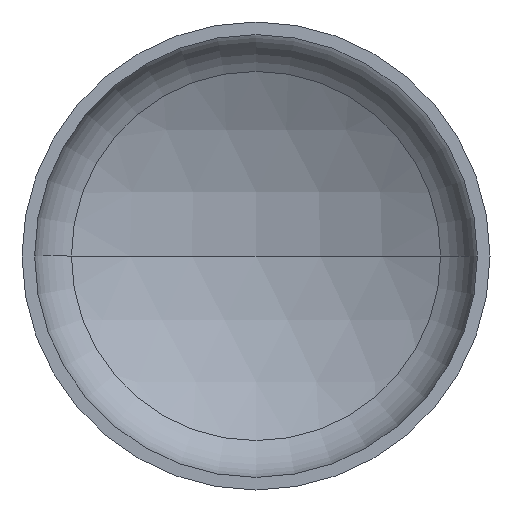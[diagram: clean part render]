
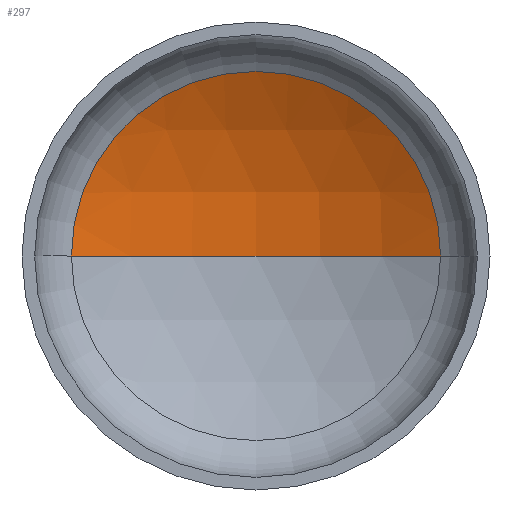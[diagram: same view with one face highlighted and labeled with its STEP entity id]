
A CAD part, front view. The second image highlights one B-rep face of the part: STEP entity #297.
In plain terms, the highlighted spherical face has radius 800 mm.
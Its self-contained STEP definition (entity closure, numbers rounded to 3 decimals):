
#8 = AXIS2_PLACEMENT_3D ( 'NONE', #384, #394, #129 ) ;
#19 = AXIS2_PLACEMENT_3D ( 'NONE', #235, #44, #207 ) ;
#21 = AXIS2_PLACEMENT_3D ( 'NONE', #147, #148, #149 ) ;
#23 = AXIS2_PLACEMENT_3D ( 'NONE', #189, #191, #171 ) ;
#38 = VERTEX_POINT ( 'NONE', #277 ) ;
#44 = DIRECTION ( 'NONE',  ( 0., 0., 1. ) ) ;
#56 = EDGE_CURVE ( 'NONE', #222, #315, #323, .T. ) ;
#57 = EDGE_CURVE ( 'NONE', #38, #222, #252, .T. ) ;
#58 = EDGE_CURVE ( 'NONE', #38, #315, #88, .T. ) ;
#60 = FACE_OUTER_BOUND ( 'NONE', #360, .T. ) ;
#88 = CIRCLE ( 'NONE', #19, 800. ) ;
#101 = CARTESIAN_POINT ( 'NONE',  ( -394.419, 219.853, 0. ) ) ;
#129 = DIRECTION ( 'NONE',  ( -1., 0., 0. ) ) ;
#139 = ORIENTED_EDGE ( 'NONE', *, *, #56, .T. ) ;
#147 = CARTESIAN_POINT ( 'NONE',  ( 0., -476.16, 0. ) ) ;
#148 = DIRECTION ( 'NONE',  ( 0., 0., -1. ) ) ;
#149 = DIRECTION ( 'NONE',  ( -1., 0., 0. ) ) ;
#171 = DIRECTION ( 'NONE',  ( 1., 0., 0. ) ) ;
#189 = CARTESIAN_POINT ( 'NONE',  ( 0., 219.853, 0. ) ) ;
#191 = DIRECTION ( 'NONE',  ( 0., -1., 0. ) ) ;
#207 = DIRECTION ( 'NONE',  ( 1., 0., 0. ) ) ;
#222 = VERTEX_POINT ( 'NONE', #227 ) ;
#225 = SPHERICAL_SURFACE ( 'NONE', #8, 800. ) ;
#227 = CARTESIAN_POINT ( 'NONE',  ( 394.419, 219.853, 0. ) ) ;
#235 = CARTESIAN_POINT ( 'NONE',  ( 0., -476.16, 0. ) ) ;
#252 = CIRCLE ( 'NONE', #21, 800. ) ;
#255 = ORIENTED_EDGE ( 'NONE', *, *, #58, .F. ) ;
#277 = CARTESIAN_POINT ( 'NONE',  ( 0., 323.84, 0. ) ) ;
#297 = ADVANCED_FACE ( 'NONE', ( #60 ), #225, .F. ) ;
#315 = VERTEX_POINT ( 'NONE', #101 ) ;
#323 = CIRCLE ( 'NONE', #23, 394.419 ) ;
#360 = EDGE_LOOP ( 'NONE', ( #255, #369, #139 ) ) ;
#369 = ORIENTED_EDGE ( 'NONE', *, *, #57, .T. ) ;
#384 = CARTESIAN_POINT ( 'NONE',  ( 0., -476.16, 0. ) ) ;
#394 = DIRECTION ( 'NONE',  ( 0., 0., -1. ) ) ;
